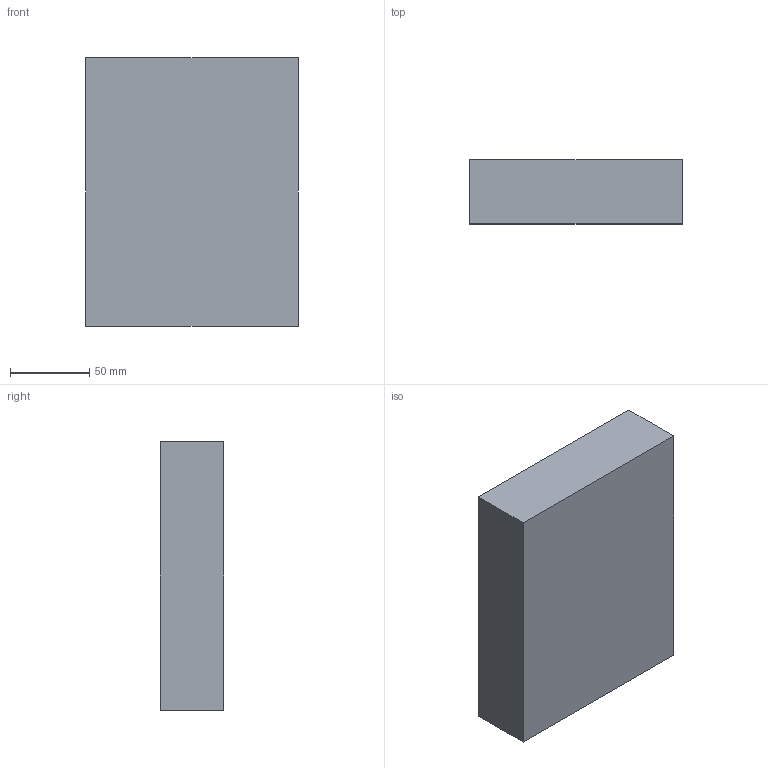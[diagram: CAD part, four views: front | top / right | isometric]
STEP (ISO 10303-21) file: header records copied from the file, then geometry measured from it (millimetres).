
FILE_DESCRIPTION(/* description */ ('VariCAD 2010-2.03 AP-203'),/* implementation_level */ '2;1');
FILE_NAME(/* name */ '0353-62-033',/* time_stamp */ '2010-07-25T15:12:09-06:00',/* author */ (''),/* organization */ (''),/* preprocessor_version */ 'ST-DEVELOPER v12',/* originating_system */ 'VariCAD 2010-2.03; kernel version (20100102)',/* authorisation */ '');
FILE_SCHEMA (('CONFIG_CONTROL_DESIGN'));
Length unit declared in the file: millimetre
Products named in the file (1): Part
Bounding box: 134 x 40 x 169 mm (x, y, z)
Volume: 905840 mm3; surface area: 69532 mm2
Topology: 1 solids, 1 shells, 6 faces, 12 edges, 8 vertices
Faces by surface type: plane 6
Entity records: 202 total; most frequent: DIRECTION 28, CARTESIAN_POINT 28, ORIENTED_EDGE 24, EDGE_CURVE 12, LINE 12, VECTOR 12, VERTEX_POINT 8, AXIS2_PLACEMENT_3D 8
